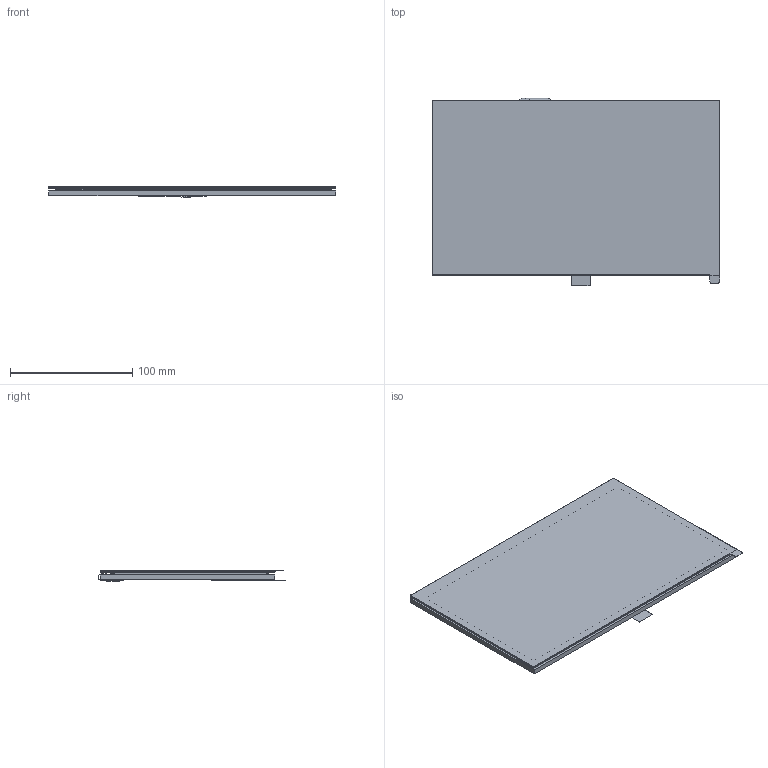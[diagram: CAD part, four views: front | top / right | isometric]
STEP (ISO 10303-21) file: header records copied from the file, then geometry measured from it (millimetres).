
FILE_DESCRIPTION(('FreeCAD Model'),'2;1');
FILE_NAME('Open CASCADE Shape Model','2026-06-26T16:35:04',(''),(''), 'Open CASCADE STEP processor 7.8','FreeCAD','Unknown');
FILE_SCHEMA(('AUTOMOTIVE_DESIGN { 1 0 10303 214 1 1 1 1 }'));
Length unit declared in the file: millimetre
Products named in the file (1): Body
Bounding box: 235.3 x 153.5 x 8.43 mm (x, y, z)
Volume: 229752.8 mm3; surface area: 198580.1 mm2
Topology: 1 solids, 3 shells, 328 faces, 818 edges, 535 vertices
Faces by surface type: plane 282, bspline 28, cylinder 16, extrusion 2
Entity records: 9889 total; most frequent: CARTESIAN_POINT 2239, ORIENTED_EDGE 1636, DIRECTION 1368, EDGE_CURVE 818, VECTOR 706, LINE 704, VERTEX_POINT 535, FACE_BOUND 375
